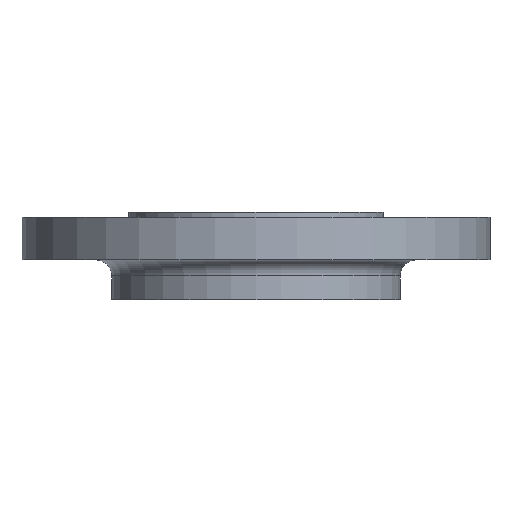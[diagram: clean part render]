
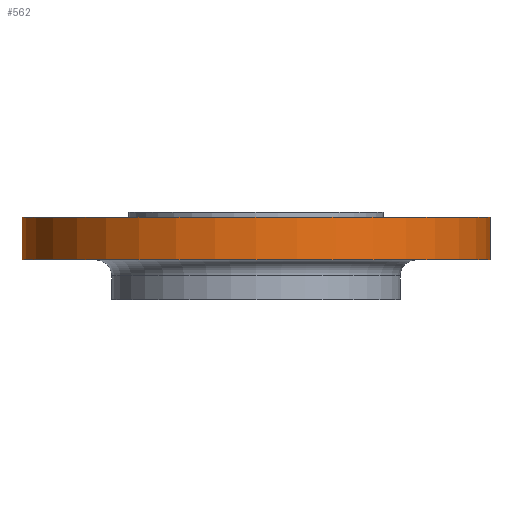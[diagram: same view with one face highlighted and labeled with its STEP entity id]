
A CAD part, front view. The second image highlights one B-rep face of the part: STEP entity #562.
In plain terms, the highlighted cylindrical face has radius 117.5 mm (diameter 235 mm), a partial arc.
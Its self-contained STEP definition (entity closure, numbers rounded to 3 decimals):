
#20 = CARTESIAN_POINT ( 'NONE',  ( 117.5, 0., -24. ) ) ;
#171 = CIRCLE ( 'NONE', #176, 117.5 ) ;
#176 = AXIS2_PLACEMENT_3D ( 'NONE', #378, #377, #374 ) ;
#207 = CARTESIAN_POINT ( 'NONE',  ( 117.5, 0., -2.5 ) ) ;
#354 = VECTOR ( 'NONE', #460, 1000. ) ;
#373 = CARTESIAN_POINT ( 'NONE',  ( -117.5, 0., -24. ) ) ;
#374 = DIRECTION ( 'NONE',  ( 1., 0., 0. ) ) ;
#377 = DIRECTION ( 'NONE',  ( 0., 0., 1. ) ) ;
#378 = CARTESIAN_POINT ( 'NONE',  ( 0., 0., -24. ) ) ;
#460 = DIRECTION ( 'NONE',  ( 0., 0., 1. ) ) ;
#461 = CARTESIAN_POINT ( 'NONE',  ( 117.5, 0., -75. ) ) ;
#467 = LINE ( 'NONE', #461, #354 ) ;
#516 = DIRECTION ( 'NONE',  ( 1., 0., 0. ) ) ;
#522 = CYLINDRICAL_SURFACE ( 'NONE', #567, 117.5 ) ;
#523 = CARTESIAN_POINT ( 'NONE',  ( 0., 0., -75. ) ) ;
#526 = DIRECTION ( 'NONE',  ( 0., 0., 1. ) ) ;
#529 = FACE_OUTER_BOUND ( 'NONE', #707, .T. ) ;
#531 = DIRECTION ( 'NONE',  ( 0., 0., 1. ) ) ;
#534 = EDGE_CURVE ( 'NONE', #738, #1090, #655, .T. ) ;
#535 = CARTESIAN_POINT ( 'NONE',  ( -117.5, 0., -75. ) ) ;
#536 = LINE ( 'NONE', #535, #618 ) ;
#547 = DIRECTION ( 'NONE',  ( -1., 0., 0. ) ) ;
#548 = DIRECTION ( 'NONE',  ( 0., 0., -1. ) ) ;
#549 = CARTESIAN_POINT ( 'NONE',  ( 0., 0., -2.5 ) ) ;
#556 = EDGE_CURVE ( 'NONE', #672, #1090, #536, .T. ) ;
#562 = ADVANCED_FACE ( 'NONE', ( #529 ), #522, .T. ) ;
#567 = AXIS2_PLACEMENT_3D ( 'NONE', #523, #526, #516 ) ;
#618 = VECTOR ( 'NONE', #531, 1000. ) ;
#636 = CARTESIAN_POINT ( 'NONE',  ( -117.5, 0., -2.5 ) ) ;
#644 = EDGE_CURVE ( 'NONE', #982, #738, #467, .T. ) ;
#646 = AXIS2_PLACEMENT_3D ( 'NONE', #549, #548, #547 ) ;
#655 = CIRCLE ( 'NONE', #646, 117.5 ) ;
#670 = EDGE_CURVE ( 'NONE', #672, #982, #171, .T. ) ;
#672 = VERTEX_POINT ( 'NONE', #373 ) ;
#707 = EDGE_LOOP ( 'NONE', ( #985, #986, #987, #988 ) ) ;
#738 = VERTEX_POINT ( 'NONE', #207 ) ;
#982 = VERTEX_POINT ( 'NONE', #20 ) ;
#985 = ORIENTED_EDGE ( 'NONE', *, *, #556, .F. ) ;
#986 = ORIENTED_EDGE ( 'NONE', *, *, #670, .T. ) ;
#987 = ORIENTED_EDGE ( 'NONE', *, *, #644, .T. ) ;
#988 = ORIENTED_EDGE ( 'NONE', *, *, #534, .T. ) ;
#1090 = VERTEX_POINT ( 'NONE', #636 ) ;
